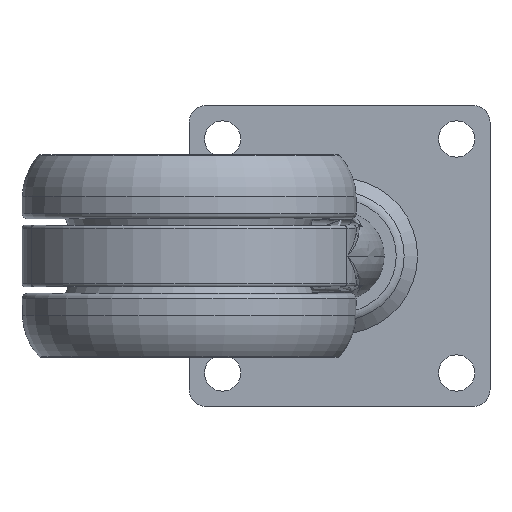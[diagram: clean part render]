
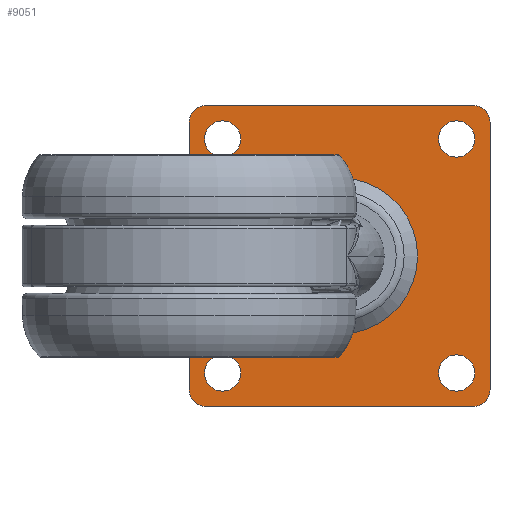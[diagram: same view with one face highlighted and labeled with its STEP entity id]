
A CAD part, front view. The second image highlights one B-rep face of the part: STEP entity #9051.
In plain terms, the highlighted planar face has unit normal (0, -1, 0).
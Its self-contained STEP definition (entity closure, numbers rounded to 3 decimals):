
#76 = CARTESIAN_POINT ( 'NONE',  ( 54., 48.5, 0. ) ) ;
#116 = AXIS2_PLACEMENT_3D ( 'NONE', #8212, #4905, #10260 ) ;
#151 = ORIENTED_EDGE ( 'NONE', *, *, #13872, .F. ) ;
#276 = ORIENTED_EDGE ( 'NONE', *, *, #9833, .T. ) ;
#485 = CARTESIAN_POINT ( 'NONE',  ( 6., 48.5, -21. ) ) ;
#595 = AXIS2_PLACEMENT_3D ( 'NONE', #5205, #9493, #6052 ) ;
#596 = VERTEX_POINT ( 'NONE', #12110 ) ;
#759 = VECTOR ( 'NONE', #12541, 1000. ) ;
#763 = LINE ( 'NONE', #1731, #5840 ) ;
#922 = CARTESIAN_POINT ( 'NONE',  ( 3., 48.5, -24. ) ) ;
#1046 = VERTEX_POINT ( 'NONE', #4733 ) ;
#1084 = CARTESIAN_POINT ( 'NONE',  ( 48., 48.5, -21. ) ) ;
#1366 = PLANE ( 'NONE',  #2920 ) ;
#1685 = AXIS2_PLACEMENT_3D ( 'NONE', #13084, #6542, #7460 ) ;
#1731 = CARTESIAN_POINT ( 'NONE',  ( 41., 48.5, -27. ) ) ;
#1762 = DIRECTION ( 'NONE',  ( -1., 0., 0. ) ) ;
#1794 = CARTESIAN_POINT ( 'NONE',  ( 41., 48.5, 27. ) ) ;
#1849 = EDGE_CURVE ( 'NONE', #596, #596, #2573, .T. ) ;
#2226 = ORIENTED_EDGE ( 'NONE', *, *, #9583, .T. ) ;
#2267 = AXIS2_PLACEMENT_3D ( 'NONE', #7647, #12935, #9770 ) ;
#2314 = DIRECTION ( 'NONE',  ( 0., 1., 0. ) ) ;
#2340 = CARTESIAN_POINT ( 'NONE',  ( 3., 48.5, -27. ) ) ;
#2430 = VERTEX_POINT ( 'NONE', #5858 ) ;
#2573 = CIRCLE ( 'NONE', #116, 3.25 ) ;
#2595 = ORIENTED_EDGE ( 'NONE', *, *, #2701, .T. ) ;
#2629 = DIRECTION ( 'NONE',  ( -1., 0., 0. ) ) ;
#2701 = EDGE_CURVE ( 'NONE', #12257, #12257, #7073, .T. ) ;
#2735 = EDGE_LOOP ( 'NONE', ( #8873 ) ) ;
#2920 = AXIS2_PLACEMENT_3D ( 'NONE', #3827, #4607, #2629 ) ;
#2951 = EDGE_CURVE ( 'NONE', #11418, #7199, #13380, .T. ) ;
#3022 = EDGE_CURVE ( 'NONE', #13188, #7010, #9346, .T. ) ;
#3099 = DIRECTION ( 'NONE',  ( -1., 0., 0. ) ) ;
#3219 = VERTEX_POINT ( 'NONE', #6515 ) ;
#3518 = EDGE_CURVE ( 'NONE', #10223, #10223, #4194, .T. ) ;
#3756 = FACE_BOUND ( 'NONE', #2735, .T. ) ;
#3827 = CARTESIAN_POINT ( 'NONE',  ( 41., 48.5, 0. ) ) ;
#3836 = CIRCLE ( 'NONE', #9898, 3. ) ;
#4194 = CIRCLE ( 'NONE', #12264, 3.25 ) ;
#4437 = EDGE_CURVE ( 'NONE', #11418, #8568, #5572, .T. ) ;
#4507 = AXIS2_PLACEMENT_3D ( 'NONE', #485, #7913, #11367 ) ;
#4607 = DIRECTION ( 'NONE',  ( 0., 1., 0. ) ) ;
#4733 = CARTESIAN_POINT ( 'NONE',  ( 51., 48.5, 27. ) ) ;
#4905 = DIRECTION ( 'NONE',  ( 0., 1., 0. ) ) ;
#5047 = EDGE_LOOP ( 'NONE', ( #276 ) ) ;
#5205 = CARTESIAN_POINT ( 'NONE',  ( 51., 48.5, -24. ) ) ;
#5305 = CARTESIAN_POINT ( 'NONE',  ( 0., 48.5, 0. ) ) ;
#5348 = CARTESIAN_POINT ( 'NONE',  ( 27., 48.5, 0. ) ) ;
#5371 = DIRECTION ( 'NONE',  ( 0., 1., 0. ) ) ;
#5385 = ORIENTED_EDGE ( 'NONE', *, *, #9273, .F. ) ;
#5453 = EDGE_LOOP ( 'NONE', ( #10507, #11160, #5385, #5899, #7830, #7115, #151, #2226 ) ) ;
#5567 = EDGE_LOOP ( 'NONE', ( #7671 ) ) ;
#5572 = LINE ( 'NONE', #5305, #12976 ) ;
#5840 = VECTOR ( 'NONE', #11634, 1000. ) ;
#5858 = CARTESIAN_POINT ( 'NONE',  ( 3., 48.5, 27. ) ) ;
#5862 = DIRECTION ( 'NONE',  ( -1., 0., 0. ) ) ;
#5899 = ORIENTED_EDGE ( 'NONE', *, *, #3022, .T. ) ;
#6052 = DIRECTION ( 'NONE',  ( -1., 0., 0. ) ) ;
#6063 = VERTEX_POINT ( 'NONE', #6896 ) ;
#6515 = CARTESIAN_POINT ( 'NONE',  ( 2.75, 48.5, -21. ) ) ;
#6542 = DIRECTION ( 'NONE',  ( 0., 1., 0. ) ) ;
#6636 = AXIS2_PLACEMENT_3D ( 'NONE', #922, #10549, #1762 ) ;
#6853 = CARTESIAN_POINT ( 'NONE',  ( 3., 48.5, 24. ) ) ;
#6896 = CARTESIAN_POINT ( 'NONE',  ( 54., 48.5, 24. ) ) ;
#7010 = VERTEX_POINT ( 'NONE', #11706 ) ;
#7073 = CIRCLE ( 'NONE', #1685, 3.25 ) ;
#7115 = ORIENTED_EDGE ( 'NONE', *, *, #11021, .T. ) ;
#7199 = VERTEX_POINT ( 'NONE', #2340 ) ;
#7460 = DIRECTION ( 'NONE',  ( -1., 0., 0. ) ) ;
#7647 = CARTESIAN_POINT ( 'NONE',  ( 51., 48.5, 24. ) ) ;
#7655 = VECTOR ( 'NONE', #11876, 1000. ) ;
#7671 = ORIENTED_EDGE ( 'NONE', *, *, #1849, .T. ) ;
#7826 = FACE_BOUND ( 'NONE', #11506, .T. ) ;
#7830 = ORIENTED_EDGE ( 'NONE', *, *, #11042, .F. ) ;
#7913 = DIRECTION ( 'NONE',  ( 0., 1., 0. ) ) ;
#7968 = DIRECTION ( 'NONE',  ( 0., -1., 0. ) ) ;
#8036 = FACE_OUTER_BOUND ( 'NONE', #5453, .T. ) ;
#8092 = AXIS2_PLACEMENT_3D ( 'NONE', #5348, #2314, #3099 ) ;
#8117 = CIRCLE ( 'NONE', #2267, 3. ) ;
#8212 = CARTESIAN_POINT ( 'NONE',  ( 48., 48.5, 21. ) ) ;
#8568 = VERTEX_POINT ( 'NONE', #8570 ) ;
#8570 = CARTESIAN_POINT ( 'NONE',  ( 0., 48.5, 24. ) ) ;
#8701 = CARTESIAN_POINT ( 'NONE',  ( 13., 48.5, 0. ) ) ;
#8772 = CIRCLE ( 'NONE', #4507, 3.25 ) ;
#8873 = ORIENTED_EDGE ( 'NONE', *, *, #9991, .T. ) ;
#9051 = ADVANCED_FACE ( 'NONE', ( #11071, #10235, #3756, #7826, #11142, #8036 ), #1366, .F. ) ;
#9273 = EDGE_CURVE ( 'NONE', #13188, #7199, #763, .T. ) ;
#9346 = CIRCLE ( 'NONE', #595, 3. ) ;
#9439 = CARTESIAN_POINT ( 'NONE',  ( 44.75, 48.5, -21. ) ) ;
#9493 = DIRECTION ( 'NONE',  ( 0., -1., 0. ) ) ;
#9583 = EDGE_CURVE ( 'NONE', #2430, #8568, #3836, .T. ) ;
#9661 = DIRECTION ( 'NONE',  ( -1., 0., 0. ) ) ;
#9770 = DIRECTION ( 'NONE',  ( -1., 0., 0. ) ) ;
#9833 = EDGE_CURVE ( 'NONE', #3219, #3219, #8772, .T. ) ;
#9898 = AXIS2_PLACEMENT_3D ( 'NONE', #6853, #7968, #5862 ) ;
#9991 = EDGE_CURVE ( 'NONE', #13056, #13056, #13034, .T. ) ;
#10098 = ORIENTED_EDGE ( 'NONE', *, *, #3518, .T. ) ;
#10223 = VERTEX_POINT ( 'NONE', #9439 ) ;
#10235 = FACE_BOUND ( 'NONE', #11837, .T. ) ;
#10260 = DIRECTION ( 'NONE',  ( -1., 0., 0. ) ) ;
#10507 = ORIENTED_EDGE ( 'NONE', *, *, #4437, .F. ) ;
#10549 = DIRECTION ( 'NONE',  ( 0., -1., 0. ) ) ;
#11021 = EDGE_CURVE ( 'NONE', #6063, #1046, #8117, .T. ) ;
#11042 = EDGE_CURVE ( 'NONE', #6063, #7010, #11807, .T. ) ;
#11071 = FACE_BOUND ( 'NONE', #5567, .T. ) ;
#11142 = FACE_BOUND ( 'NONE', #5047, .T. ) ;
#11160 = ORIENTED_EDGE ( 'NONE', *, *, #2951, .T. ) ;
#11367 = DIRECTION ( 'NONE',  ( -1., 0., 0. ) ) ;
#11418 = VERTEX_POINT ( 'NONE', #13252 ) ;
#11420 = LINE ( 'NONE', #1794, #759 ) ;
#11506 = EDGE_LOOP ( 'NONE', ( #2595 ) ) ;
#11634 = DIRECTION ( 'NONE',  ( -1., 0., 0. ) ) ;
#11706 = CARTESIAN_POINT ( 'NONE',  ( 54., 48.5, -24. ) ) ;
#11807 = LINE ( 'NONE', #76, #7655 ) ;
#11837 = EDGE_LOOP ( 'NONE', ( #10098 ) ) ;
#11876 = DIRECTION ( 'NONE',  ( 0., 0., -1. ) ) ;
#12110 = CARTESIAN_POINT ( 'NONE',  ( 44.75, 48.5, 21. ) ) ;
#12257 = VERTEX_POINT ( 'NONE', #12384 ) ;
#12264 = AXIS2_PLACEMENT_3D ( 'NONE', #1084, #5371, #9661 ) ;
#12384 = CARTESIAN_POINT ( 'NONE',  ( 2.75, 48.5, 21. ) ) ;
#12541 = DIRECTION ( 'NONE',  ( 1., 0., 0. ) ) ;
#12826 = DIRECTION ( 'NONE',  ( 0., 0., 1. ) ) ;
#12935 = DIRECTION ( 'NONE',  ( 0., -1., 0. ) ) ;
#12976 = VECTOR ( 'NONE', #12826, 1000. ) ;
#13034 = CIRCLE ( 'NONE', #8092, 14. ) ;
#13056 = VERTEX_POINT ( 'NONE', #8701 ) ;
#13084 = CARTESIAN_POINT ( 'NONE',  ( 6., 48.5, 21. ) ) ;
#13188 = VERTEX_POINT ( 'NONE', #13428 ) ;
#13252 = CARTESIAN_POINT ( 'NONE',  ( 0., 48.5, -24. ) ) ;
#13380 = CIRCLE ( 'NONE', #6636, 3. ) ;
#13428 = CARTESIAN_POINT ( 'NONE',  ( 51., 48.5, -27. ) ) ;
#13872 = EDGE_CURVE ( 'NONE', #2430, #1046, #11420, .T. ) ;
